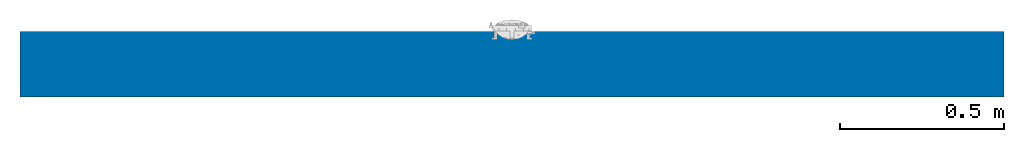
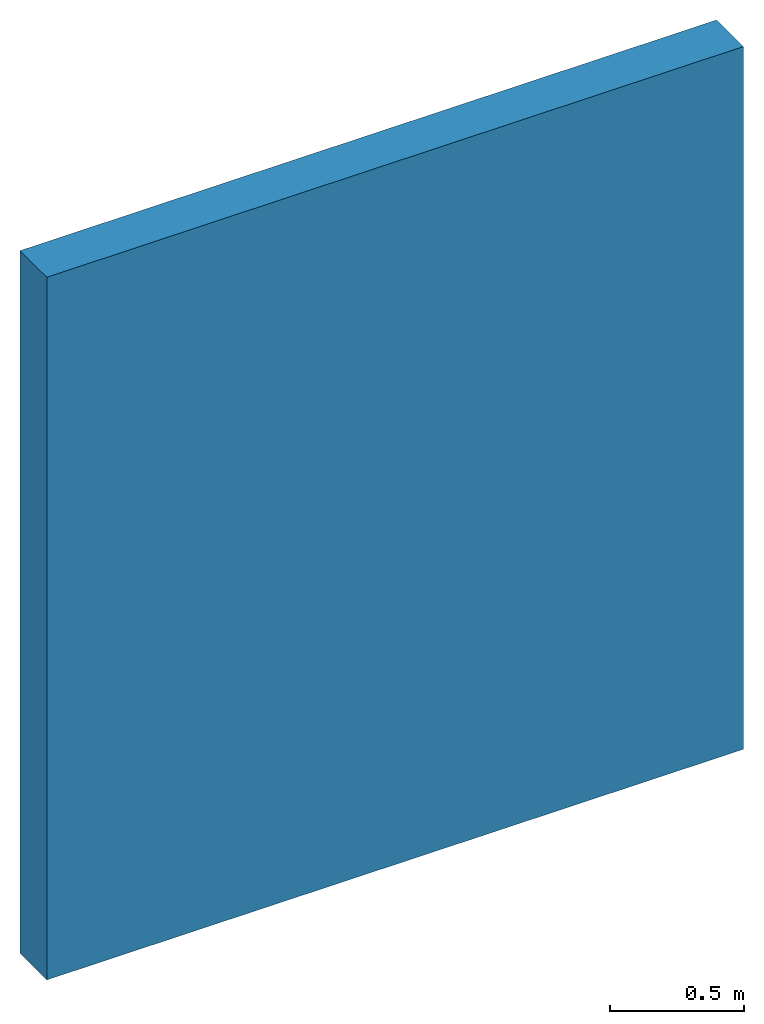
# One storey, incomplete: 1 wall.
"""IFC2X3 building model written with IfcOpenShell, lengths in metres."""

from ifc_helpers import new_model, si_unit, direction, frame, frame_2d, origin, place, context, subcontext, project, spatial, rectangle, extrude, material, layer, layer_set, layer_usage, type_object, element, save


model = new_model("IFC2X3")

# Units and contexts
model_context = context("Model", 3, precision=1e-05, world=origin(), true_north=direction((6.123233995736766e-17, 1.0)))
body_context = subcontext(model_context, "Body", "Model", "MODEL_VIEW")
ifc_project = project(units=[si_unit("LENGTHUNIT", "METRE"), si_unit("AREAUNIT", "SQUARE_METRE")], contexts=[model_context])

# Site, building, storey
site_placement = place(None, origin())
site = spatial("IfcSite", under=ifc_project, at=site_placement, Name="Default", CompositionType="ELEMENT")
building_placement = place(site_placement, origin())
building = spatial("IfcBuilding", under=site, at=building_placement, CompositionType="ELEMENT")
storey_placement = place(building_placement, origin())
storey = spatial("IfcBuildingStorey", under=building, at=storey_placement, Name="Level 1", CompositionType="ELEMENT", Elevation=0.0)

# Wall
ifc_material = material(Name="Default Wall")
ifc_layer = layer(ifc_material, 0.2)
ifc_layer_set = layer_set([ifc_layer], Name="Basic Wall:Wall 20cm2")
ifc_layer_usage = layer_usage(ifc_layer_set, "AXIS2", "NEGATIVE", 0.1)
wall_type = type_object("IfcWallType", Name="Basic Wall:Wall 20cm2", PredefinedType="STANDARD", material=ifc_layer_set)
wall_placement = place(storey_placement, frame((-5.451098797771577, 1.1159804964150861, 0.0)))
element("IfcWallStandardCase", 1, at=wall_placement, inside=storey, type_object=wall_type, material=ifc_layer_usage, Name="Basic Wall:Wall 20cm2", ObjectType="Basic Wall:Wall 20cm2", context=body_context, shape_type="SweptSolid", body=[
    extrude(rectangle(XDim=3.0000000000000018, YDim=0.2, at=frame_2d((1.5000000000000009, 0.0), x_axis=(-1.0, 0.0))), origin(), (0.0, 0.0, 1.0), 3.2),
])

save(model, "model.ifc")
